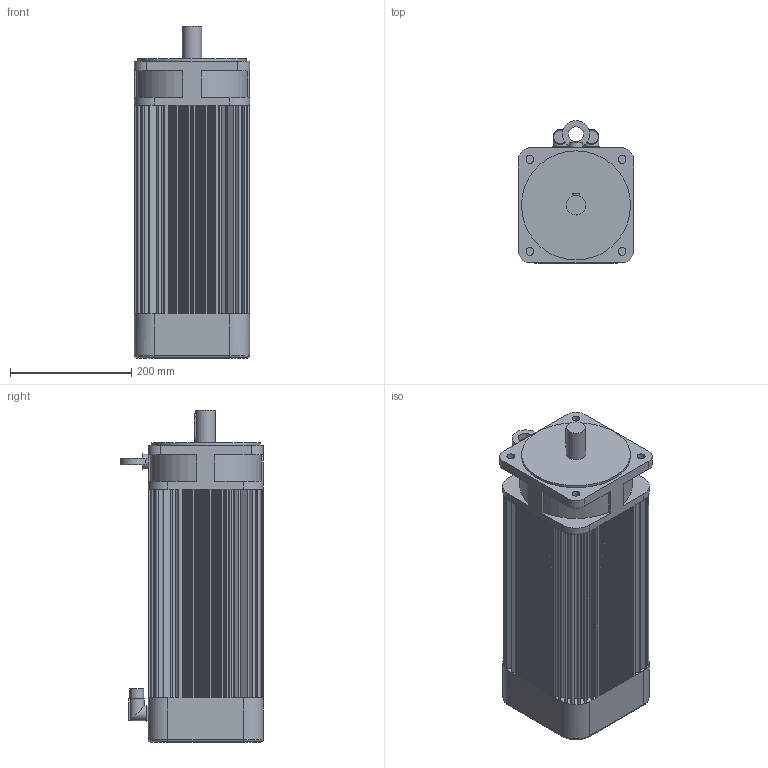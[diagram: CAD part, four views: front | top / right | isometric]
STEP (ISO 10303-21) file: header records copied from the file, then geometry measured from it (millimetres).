
FILE_DESCRIPTION(/* description */ (''),/* implementation_level */ '2;1');
FILE_NAME(/* name */ '\\Lafnas01\disegni\Archivi Lafert\3D\CAD 3D\MODELLI\Assiemi clienti\Serad\Modelli 3D Serad\B100I\Encoder\Enc With Brake\B1054Ixx6BRx2033.ipt.stp',/* time_stamp */ '2015-09-07T10:47:27+02:00',/* author */ ('Pastrello Ylenia'),/* organization */ (''),/* preprocessor_version */ 'ST-DEVELOPER v15.6',/* originating_system */ 'Autodesk Inventor 2015',/* authorisation */ '');
FILE_SCHEMA (('AUTOMOTIVE_DESIGN { 1 0 10303 214 3 1 1 }'));
Length unit declared in the file: millimetre
Products named in the file (1): B1054Ixx6BRx2033
Bounding box: 190 x 235 x 548 mm (x, y, z)
Volume: 16364643.2 mm3; surface area: 647208.8 mm2
Topology: 1 solids, 1 shells, 608 faces, 1497 edges, 980 vertices
Faces by surface type: plane 499, cylinder 105, torus 4
Full cylindrical faces by diameter (mm): 13 x4, 22.7 x2, 24 x2, 25 x2, 32 x1, 180 x1
Entity records: 17791 total; most frequent: CARTESIAN_POINT 3128, DIRECTION 2992, ORIENTED_EDGE 2962, EDGE_CURVE 1481, LINE 1180, VECTOR 1180, VERTEX_POINT 977, AXIS2_PLACEMENT_3D 906
